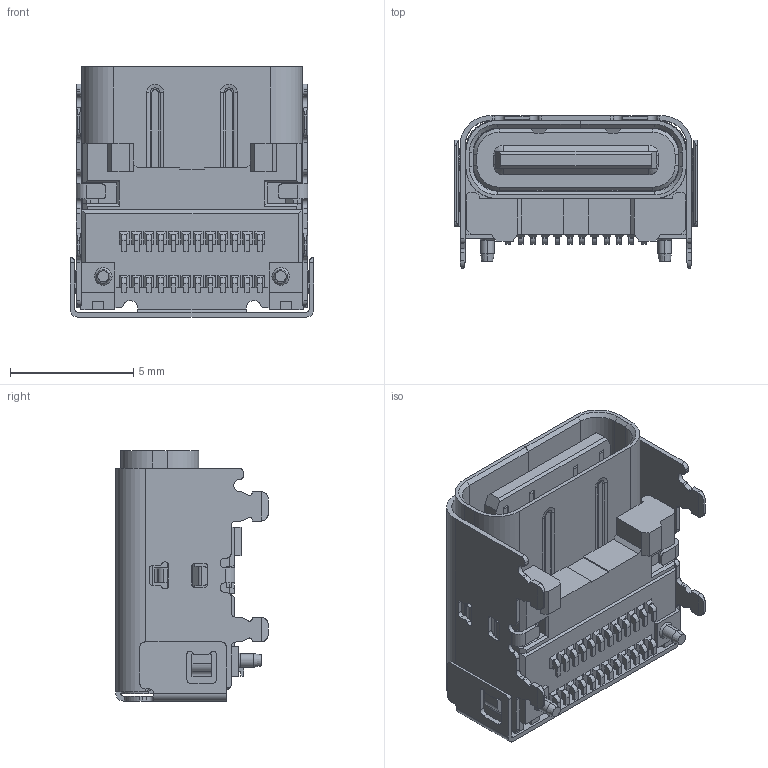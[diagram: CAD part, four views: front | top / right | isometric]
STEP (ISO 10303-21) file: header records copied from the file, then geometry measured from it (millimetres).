
FILE_DESCRIPTION((''),'2;1');
FILE_NAME('I-U424100B14-1','2026-05-14T',('PMT1 SFT'),(''),'PRO/ENGINEER BY PARAMETRIC TECHNOLOGY CORPORATION, 2011490','PRO/ENGINEER BY PARAMETRIC TECHNOLOGY CORPORATION, 2011490','');
FILE_SCHEMA(('CONFIG_CONTROL_DESIGN'));
Products named in the file (1): I-U424100B14-1
Bounding box: 9.9 x 6.18 x 10.15 mm (x, y, z)
Surface area: 1108.7 mm2
Topology: 19 solids, 20 shells, 2284 faces, 6602 edges, 4302 vertices
Faces by surface type: plane 1622, cylinder 526, cone 60, bspline 47, torus 28, extrusion 1
Entity records: 77222 total; most frequent: CARTESIAN_POINT 16205, ORIENTED_EDGE 13198, DIRECTION 12345, EDGE_CURVE 6602, VECTOR 4865, LINE 4864, VERTEX_POINT 4306, AXIS2_PLACEMENT_3D 3740
